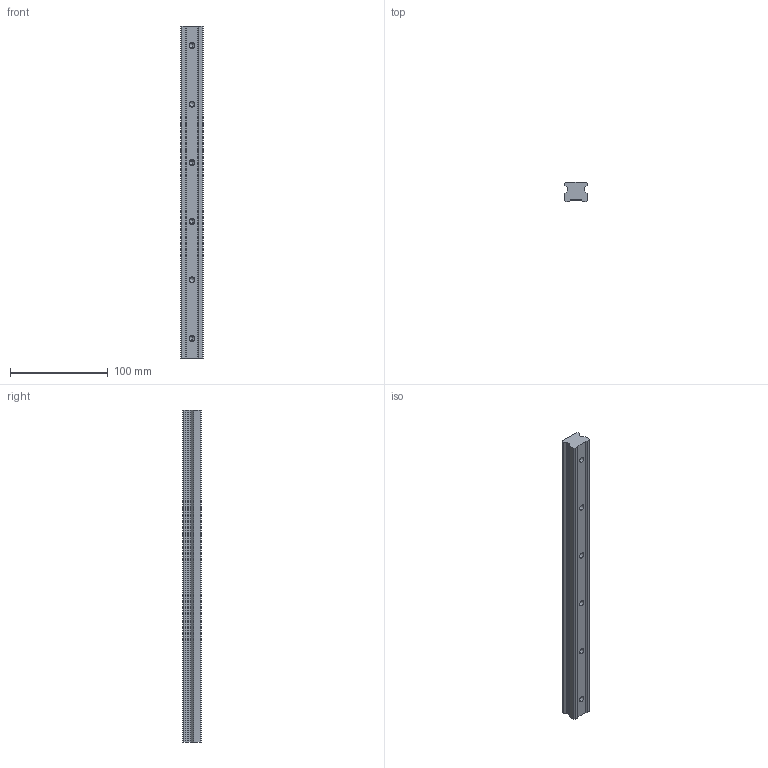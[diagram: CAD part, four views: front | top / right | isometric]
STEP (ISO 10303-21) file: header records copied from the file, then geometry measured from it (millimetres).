
FILE_DESCRIPTION (( 'STEP AP203' ), '1' );
FILE_NAME ('L1016.BRF25-0340.step', '2019-06-13T08:34:27', ( '' ), ( '' ), 'SwSTEP 2.0', 'SolidWorks 2017', '' );
FILE_SCHEMA (( 'CONFIG_CONTROL_DESIGN' ));
Length unit declared in the file: millimetre
Products named in the file (1): L1016.BRF25-0340
Bounding box: 23 x 19.2 x 340 mm (x, y, z)
Volume: 129693.2 mm3; surface area: 32057.6 mm2
Topology: 1 solids, 1 shells, 68 faces, 168 edges, 102 vertices
Faces by surface type: cylinder 28, plane 28, cone 12
Entity records: 2005 total; most frequent: DIRECTION 350, CARTESIAN_POINT 327, ORIENTED_EDGE 312, EDGE_CURVE 156, AXIS2_PLACEMENT_3D 125, VERTEX_POINT 102, VECTOR 100, LINE 100
